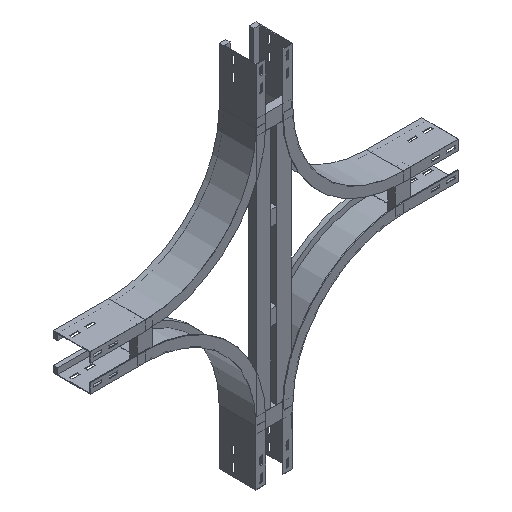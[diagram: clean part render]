
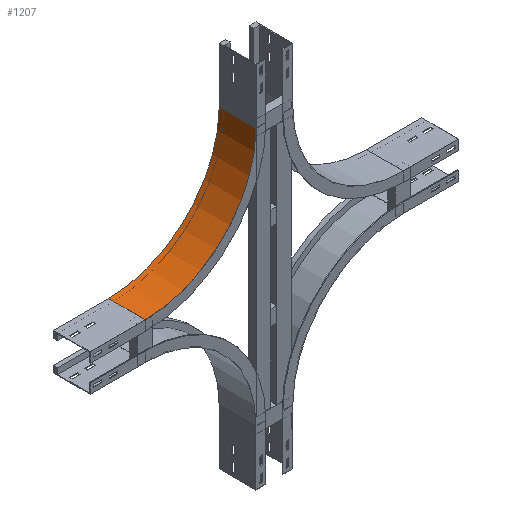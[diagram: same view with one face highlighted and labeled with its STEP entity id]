
A CAD part, isometric view. The second image highlights one B-rep face of the part: STEP entity #1207.
In plain terms, the highlighted cylindrical face has radius 300 mm (diameter 600 mm), a partial arc.
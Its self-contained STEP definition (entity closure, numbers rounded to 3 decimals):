
#135 = FACE_OUTER_BOUND ( 'NONE', #1611, .T. ) ;
#223 = EDGE_CURVE ( 'NONE', #1089, #621, #1009, .T. ) ;
#372 = CARTESIAN_POINT ( 'NONE',  ( 300., 0., -450. ) ) ;
#373 = CYLINDRICAL_SURFACE ( 'NONE', #2347, 300. ) ;
#398 = ORIENTED_EDGE ( 'NONE', *, *, #529, .T. ) ;
#497 = EDGE_CURVE ( 'NONE', #621, #590, #1135, .T. ) ;
#529 = EDGE_CURVE ( 'NONE', #1089, #691, #1166, .T. ) ;
#586 = VECTOR ( 'NONE', #1138, 1000. ) ;
#590 = VERTEX_POINT ( 'NONE', #1168 ) ;
#621 = VERTEX_POINT ( 'NONE', #1341 ) ;
#691 = VERTEX_POINT ( 'NONE', #2134 ) ;
#714 = CARTESIAN_POINT ( 'NONE',  ( 300., 100., -150. ) ) ;
#722 = EDGE_CURVE ( 'NONE', #691, #590, #2095, .T. ) ;
#783 = CARTESIAN_POINT ( 'NONE',  ( 0., 0., -150. ) ) ;
#893 = CARTESIAN_POINT ( 'NONE',  ( 0., 0., -150. ) ) ;
#903 = CARTESIAN_POINT ( 'NONE',  ( 300., 0., -150. ) ) ;
#1009 = LINE ( 'NONE', #783, #1275 ) ;
#1089 = VERTEX_POINT ( 'NONE', #893 ) ;
#1135 = CIRCLE ( 'NONE', #1222, 300. ) ;
#1138 = DIRECTION ( 'NONE',  ( 0., 1., 0. ) ) ;
#1166 = CIRCLE ( 'NONE', #2009, 300. ) ;
#1168 = CARTESIAN_POINT ( 'NONE',  ( 300., 100., -450. ) ) ;
#1207 = ADVANCED_FACE ( 'NONE', ( #135 ), #373, .F. ) ;
#1222 = AXIS2_PLACEMENT_3D ( 'NONE', #714, #1306, #2256 ) ;
#1269 = DIRECTION ( 'NONE',  ( 0., -1., 0. ) ) ;
#1275 = VECTOR ( 'NONE', #1775, 1000. ) ;
#1306 = DIRECTION ( 'NONE',  ( 0., -1., 0. ) ) ;
#1341 = CARTESIAN_POINT ( 'NONE',  ( 0., 100., -150. ) ) ;
#1362 = ORIENTED_EDGE ( 'NONE', *, *, #223, .F. ) ;
#1482 = CARTESIAN_POINT ( 'NONE',  ( 300., 0., -150. ) ) ;
#1611 = EDGE_LOOP ( 'NONE', ( #2284, #1362, #398, #1766 ) ) ;
#1693 = DIRECTION ( 'NONE',  ( 0., 0., -1. ) ) ;
#1766 = ORIENTED_EDGE ( 'NONE', *, *, #722, .T. ) ;
#1775 = DIRECTION ( 'NONE',  ( 0., 1., 0. ) ) ;
#2009 = AXIS2_PLACEMENT_3D ( 'NONE', #1482, #1269, #2275 ) ;
#2053 = DIRECTION ( 'NONE',  ( 0., -1., 0. ) ) ;
#2095 = LINE ( 'NONE', #372, #586 ) ;
#2134 = CARTESIAN_POINT ( 'NONE',  ( 300., 0., -450. ) ) ;
#2256 = DIRECTION ( 'NONE',  ( -1., 0., 0. ) ) ;
#2275 = DIRECTION ( 'NONE',  ( -1., 0., 0. ) ) ;
#2284 = ORIENTED_EDGE ( 'NONE', *, *, #497, .F. ) ;
#2347 = AXIS2_PLACEMENT_3D ( 'NONE', #903, #2053, #1693 ) ;
